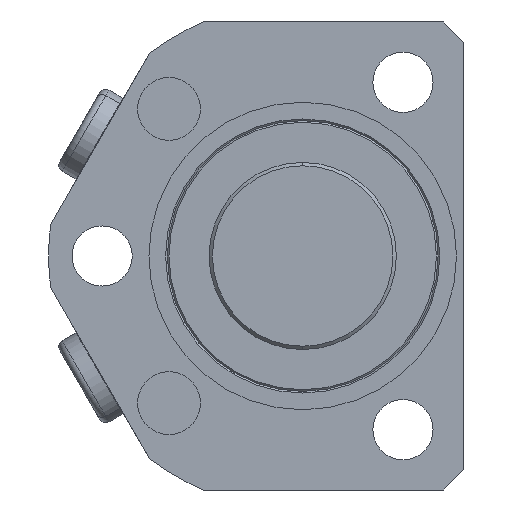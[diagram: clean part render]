
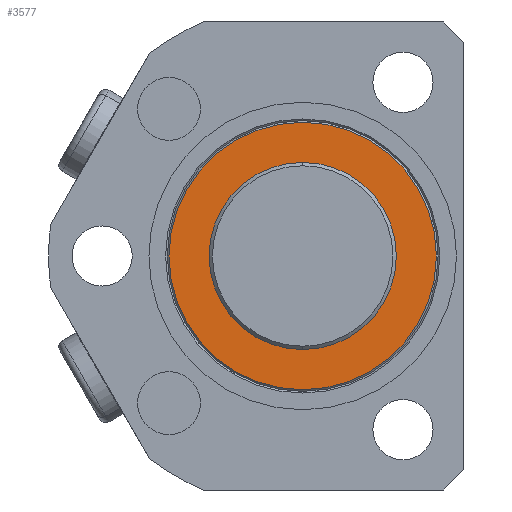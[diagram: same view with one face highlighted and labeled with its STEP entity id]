
A CAD part, front view. The second image highlights one B-rep face of the part: STEP entity #3577.
In plain terms, the highlighted planar face has unit normal (0, -1, 0).
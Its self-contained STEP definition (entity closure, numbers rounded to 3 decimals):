
#17 = VERTEX_POINT ( 'NONE', #1379 ) ;
#217 = CARTESIAN_POINT ( 'NONE',  ( 0., 0., 0. ) ) ;
#255 = DIRECTION ( 'NONE',  ( 0., -1., 0. ) ) ;
#307 = ORIENTED_EDGE ( 'NONE', *, *, #1322, .F. ) ;
#461 = CARTESIAN_POINT ( 'NONE',  ( 0., 0., 20. ) ) ;
#516 = DIRECTION ( 'NONE',  ( 0., 0., -1. ) ) ;
#689 = EDGE_CURVE ( 'NONE', #3211, #3449, #717, .T. ) ;
#717 = CIRCLE ( 'NONE', #1241, 14. ) ;
#741 = DIRECTION ( 'NONE',  ( 0., -1., 0. ) ) ;
#768 = VERTEX_POINT ( 'NONE', #461 ) ;
#854 = DIRECTION ( 'NONE',  ( 0., -1., 0. ) ) ;
#953 = CARTESIAN_POINT ( 'NONE',  ( 0., 0., -14. ) ) ;
#1095 = AXIS2_PLACEMENT_3D ( 'NONE', #3084, #1256, #3397 ) ;
#1241 = AXIS2_PLACEMENT_3D ( 'NONE', #2578, #741, #2874 ) ;
#1256 = DIRECTION ( 'NONE',  ( 0., -1., 0. ) ) ;
#1322 = EDGE_CURVE ( 'NONE', #3449, #3211, #3321, .T. ) ;
#1364 = ORIENTED_EDGE ( 'NONE', *, *, #2343, .T. ) ;
#1379 = CARTESIAN_POINT ( 'NONE',  ( 0., 0., -20. ) ) ;
#1948 = AXIS2_PLACEMENT_3D ( 'NONE', #217, #2351, #516 ) ;
#1991 = EDGE_LOOP ( 'NONE', ( #2514, #307 ) ) ;
#2075 = CARTESIAN_POINT ( 'NONE',  ( 0., 0., 0. ) ) ;
#2116 = CIRCLE ( 'NONE', #1095, 20. ) ;
#2343 = EDGE_CURVE ( 'NONE', #17, #768, #2116, .T. ) ;
#2351 = DIRECTION ( 'NONE',  ( 0., -1., 0. ) ) ;
#2378 = DIRECTION ( 'NONE',  ( 0., 0., -1. ) ) ;
#2514 = ORIENTED_EDGE ( 'NONE', *, *, #689, .F. ) ;
#2578 = CARTESIAN_POINT ( 'NONE',  ( 0., 0., 0. ) ) ;
#2630 = CIRCLE ( 'NONE', #3501, 20. ) ;
#2659 = FACE_BOUND ( 'NONE', #1991, .T. ) ;
#2691 = CARTESIAN_POINT ( 'NONE',  ( 0., 0., 0. ) ) ;
#2777 = FACE_OUTER_BOUND ( 'NONE', #2955, .T. ) ;
#2874 = DIRECTION ( 'NONE',  ( 0., 0., -1. ) ) ;
#2935 = AXIS2_PLACEMENT_3D ( 'NONE', #2075, #255, #2378 ) ;
#2955 = EDGE_LOOP ( 'NONE', ( #3566, #1364 ) ) ;
#2991 = DIRECTION ( 'NONE',  ( 0., 0., -1. ) ) ;
#3082 = CARTESIAN_POINT ( 'NONE',  ( 0., 0., 14. ) ) ;
#3084 = CARTESIAN_POINT ( 'NONE',  ( 0., 0., 0. ) ) ;
#3097 = EDGE_CURVE ( 'NONE', #768, #17, #2630, .T. ) ;
#3211 = VERTEX_POINT ( 'NONE', #953 ) ;
#3321 = CIRCLE ( 'NONE', #1948, 14. ) ;
#3397 = DIRECTION ( 'NONE',  ( 0., 0., -1. ) ) ;
#3449 = VERTEX_POINT ( 'NONE', #3082 ) ;
#3501 = AXIS2_PLACEMENT_3D ( 'NONE', #2691, #854, #2991 ) ;
#3566 = ORIENTED_EDGE ( 'NONE', *, *, #3097, .T. ) ;
#3577 = ADVANCED_FACE ( 'NONE', ( #2777, #2659 ), #3875, .T. ) ;
#3875 = PLANE ( 'NONE',  #2935 ) ;
